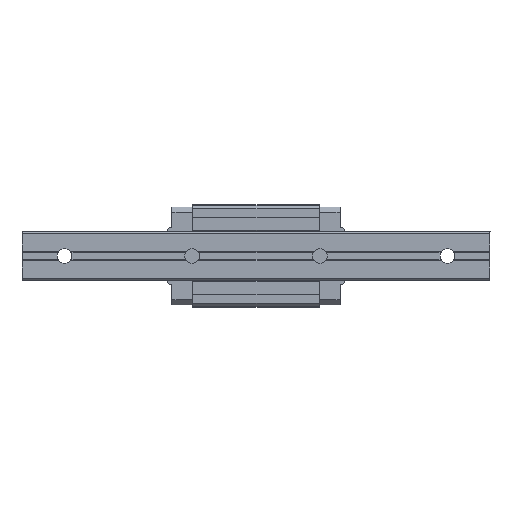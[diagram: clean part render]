
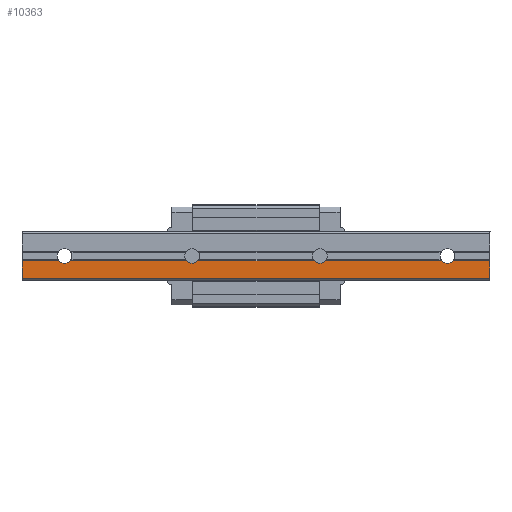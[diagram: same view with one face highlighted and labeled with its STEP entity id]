
A CAD part, front view. The second image highlights one B-rep face of the part: STEP entity #10363.
In plain terms, the highlighted planar face has unit normal (0, -1, 0).
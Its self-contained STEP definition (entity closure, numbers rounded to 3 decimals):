
#176 = CARTESIAN_POINT ( 'NONE',  ( 0., 0., 0. ) ) ;
#198 = VERTEX_POINT ( 'NONE', #8890 ) ;
#215 = DIRECTION ( 'NONE',  ( 0., 1., 0. ) ) ;
#252 = CARTESIAN_POINT ( 'NONE',  ( 180., 0., 0. ) ) ;
#267 = ORIENTED_EDGE ( 'NONE', *, *, #2455, .T. ) ;
#402 = CARTESIAN_POINT ( 'NONE',  ( 2.681, 0., -2.25 ) ) ;
#406 = CARTESIAN_POINT ( 'NONE',  ( 182.681, 0., -2.25 ) ) ;
#624 = DIRECTION ( 'NONE',  ( -1., 0., 0. ) ) ;
#743 = VERTEX_POINT ( 'NONE', #3473 ) ;
#746 = CIRCLE ( 'NONE', #6395, 3.5 ) ;
#759 = CARTESIAN_POINT ( 'NONE',  ( 180., 0., -3.5 ) ) ;
#820 = VERTEX_POINT ( 'NONE', #1976 ) ;
#879 = DIRECTION ( 'NONE',  ( -1., 0., 0. ) ) ;
#923 = DIRECTION ( 'NONE',  ( 0., 0., -1. ) ) ;
#937 = ORIENTED_EDGE ( 'NONE', *, *, #8150, .T. ) ;
#1076 = CIRCLE ( 'NONE', #7852, 3.5 ) ;
#1087 = LINE ( 'NONE', #4718, #1612 ) ;
#1111 = LINE ( 'NONE', #8879, #5697 ) ;
#1147 = ORIENTED_EDGE ( 'NONE', *, *, #2590, .T. ) ;
#1238 = CARTESIAN_POINT ( 'NONE',  ( 60., 0., -3.5 ) ) ;
#1375 = CARTESIAN_POINT ( 'NONE',  ( 60., 0., 0. ) ) ;
#1600 = VERTEX_POINT ( 'NONE', #406 ) ;
#1612 = VECTOR ( 'NONE', #2182, 1000. ) ;
#1713 = CARTESIAN_POINT ( 'NONE',  ( 120., 0., 0. ) ) ;
#1962 = VERTEX_POINT ( 'NONE', #9750 ) ;
#1976 = CARTESIAN_POINT ( 'NONE',  ( -2.681, 0., -2.25 ) ) ;
#2018 = CIRCLE ( 'NONE', #2375, 3.5 ) ;
#2039 = ORIENTED_EDGE ( 'NONE', *, *, #3336, .T. ) ;
#2053 = EDGE_CURVE ( 'NONE', #5584, #2490, #3945, .T. ) ;
#2147 = FACE_OUTER_BOUND ( 'NONE', #10454, .T. ) ;
#2171 = CARTESIAN_POINT ( 'NONE',  ( -20., 0., -2.25 ) ) ;
#2182 = DIRECTION ( 'NONE',  ( -1., 0., 0. ) ) ;
#2279 = DIRECTION ( 'NONE',  ( 0., 0., -1. ) ) ;
#2355 = EDGE_CURVE ( 'NONE', #4897, #3834, #6316, .T. ) ;
#2375 = AXIS2_PLACEMENT_3D ( 'NONE', #1713, #2534, #4187 ) ;
#2455 = EDGE_CURVE ( 'NONE', #10041, #7733, #6193, .T. ) ;
#2490 = VERTEX_POINT ( 'NONE', #5831 ) ;
#2504 = VERTEX_POINT ( 'NONE', #4121 ) ;
#2534 = DIRECTION ( 'NONE',  ( 0., 1., 0. ) ) ;
#2587 = EDGE_CURVE ( 'NONE', #198, #2504, #3027, .T. ) ;
#2590 = EDGE_CURVE ( 'NONE', #2504, #4897, #2018, .T. ) ;
#3027 = LINE ( 'NONE', #6547, #4702 ) ;
#3208 = EDGE_CURVE ( 'NONE', #3834, #743, #10423, .T. ) ;
#3283 = EDGE_CURVE ( 'NONE', #7807, #1600, #1087, .T. ) ;
#3287 = ORIENTED_EDGE ( 'NONE', *, *, #2587, .T. ) ;
#3336 = EDGE_CURVE ( 'NONE', #8562, #10041, #9797, .T. ) ;
#3353 = CARTESIAN_POINT ( 'NONE',  ( 200., 0., -2.25 ) ) ;
#3473 = CARTESIAN_POINT ( 'NONE',  ( 62.681, 0., -2.25 ) ) ;
#3574 = VECTOR ( 'NONE', #4666, 1000. ) ;
#3834 = VERTEX_POINT ( 'NONE', #9843 ) ;
#3845 = EDGE_CURVE ( 'NONE', #1962, #820, #1076, .T. ) ;
#3943 = DIRECTION ( 'NONE',  ( 0., 1., 0. ) ) ;
#3945 = LINE ( 'NONE', #5805, #9564 ) ;
#3989 = CARTESIAN_POINT ( 'NONE',  ( 0., 0., 0. ) ) ;
#4121 = CARTESIAN_POINT ( 'NONE',  ( 122.681, 0., -2.25 ) ) ;
#4187 = DIRECTION ( 'NONE',  ( 0., 0., -1. ) ) ;
#4193 = AXIS2_PLACEMENT_3D ( 'NONE', #252, #9068, #5899 ) ;
#4415 = LINE ( 'NONE', #10410, #8149 ) ;
#4666 = DIRECTION ( 'NONE',  ( -1., 0., 0. ) ) ;
#4702 = VECTOR ( 'NONE', #6511, 1000. ) ;
#4718 = CARTESIAN_POINT ( 'NONE',  ( -20., 0., -2.25 ) ) ;
#4752 = CARTESIAN_POINT ( 'NONE',  ( 57.319, 0., -2.25 ) ) ;
#4795 = DIRECTION ( 'NONE',  ( 0., 1., 0. ) ) ;
#4809 = DIRECTION ( 'NONE',  ( 0., -1., 0. ) ) ;
#4897 = VERTEX_POINT ( 'NONE', #10162 ) ;
#4906 = DIRECTION ( 'NONE',  ( 0., 0., -1. ) ) ;
#4934 = VERTEX_POINT ( 'NONE', #8633 ) ;
#4950 = DIRECTION ( 'NONE',  ( 0., 0., -1. ) ) ;
#5282 = ORIENTED_EDGE ( 'NONE', *, *, #3845, .T. ) ;
#5437 = PLANE ( 'NONE',  #10484 ) ;
#5569 = VECTOR ( 'NONE', #879, 1000. ) ;
#5584 = VERTEX_POINT ( 'NONE', #8256 ) ;
#5651 = DIRECTION ( 'NONE',  ( 0., 0., -1. ) ) ;
#5697 = VECTOR ( 'NONE', #4950, 1000. ) ;
#5805 = CARTESIAN_POINT ( 'NONE',  ( -20., 0., 0. ) ) ;
#5812 = ORIENTED_EDGE ( 'NONE', *, *, #2355, .T. ) ;
#5831 = CARTESIAN_POINT ( 'NONE',  ( -20., 0., -10.5 ) ) ;
#5837 = EDGE_CURVE ( 'NONE', #7807, #4934, #1111, .T. ) ;
#5899 = DIRECTION ( 'NONE',  ( 0., 0., -1. ) ) ;
#6079 = CARTESIAN_POINT ( 'NONE',  ( 60., 0., 0. ) ) ;
#6177 = ORIENTED_EDGE ( 'NONE', *, *, #9043, .T. ) ;
#6193 = LINE ( 'NONE', #9769, #5569 ) ;
#6198 = CIRCLE ( 'NONE', #9540, 3.5 ) ;
#6316 = CIRCLE ( 'NONE', #9887, 3.5 ) ;
#6339 = ORIENTED_EDGE ( 'NONE', *, *, #9305, .T. ) ;
#6378 = CARTESIAN_POINT ( 'NONE',  ( 120., 0., 0. ) ) ;
#6386 = DIRECTION ( 'NONE',  ( 1., 0., 0. ) ) ;
#6395 = AXIS2_PLACEMENT_3D ( 'NONE', #6079, #8537, #10158 ) ;
#6425 = DIRECTION ( 'NONE',  ( 0., 1., 0. ) ) ;
#6511 = DIRECTION ( 'NONE',  ( -1., 0., 0. ) ) ;
#6547 = CARTESIAN_POINT ( 'NONE',  ( -20., 0., -2.25 ) ) ;
#6776 = CIRCLE ( 'NONE', #9330, 3.5 ) ;
#6872 = ORIENTED_EDGE ( 'NONE', *, *, #5837, .F. ) ;
#7110 = CARTESIAN_POINT ( 'NONE',  ( -20., 0., -10.5 ) ) ;
#7158 = ORIENTED_EDGE ( 'NONE', *, *, #3208, .T. ) ;
#7318 = VERTEX_POINT ( 'NONE', #759 ) ;
#7733 = VERTEX_POINT ( 'NONE', #402 ) ;
#7807 = VERTEX_POINT ( 'NONE', #3353 ) ;
#7852 = AXIS2_PLACEMENT_3D ( 'NONE', #176, #215, #9876 ) ;
#7859 = DIRECTION ( 'NONE',  ( 0., 1., 0. ) ) ;
#8149 = VECTOR ( 'NONE', #6386, 1000. ) ;
#8150 = EDGE_CURVE ( 'NONE', #7733, #1962, #6776, .T. ) ;
#8173 = ORIENTED_EDGE ( 'NONE', *, *, #8212, .T. ) ;
#8212 = EDGE_CURVE ( 'NONE', #2490, #4934, #4415, .T. ) ;
#8256 = CARTESIAN_POINT ( 'NONE',  ( -20., 0., -2.25 ) ) ;
#8397 = CIRCLE ( 'NONE', #4193, 3.5 ) ;
#8434 = EDGE_CURVE ( 'NONE', #1600, #7318, #8397, .T. ) ;
#8526 = VECTOR ( 'NONE', #624, 1000. ) ;
#8537 = DIRECTION ( 'NONE',  ( 0., 1., 0. ) ) ;
#8562 = VERTEX_POINT ( 'NONE', #1238 ) ;
#8633 = CARTESIAN_POINT ( 'NONE',  ( 200., 0., -10.5 ) ) ;
#8655 = CARTESIAN_POINT ( 'NONE',  ( -20., 0., -2.25 ) ) ;
#8698 = ORIENTED_EDGE ( 'NONE', *, *, #3283, .T. ) ;
#8705 = CARTESIAN_POINT ( 'NONE',  ( 180., 0., 0. ) ) ;
#8783 = ORIENTED_EDGE ( 'NONE', *, *, #8434, .T. ) ;
#8879 = CARTESIAN_POINT ( 'NONE',  ( 200., 0., 0. ) ) ;
#8890 = CARTESIAN_POINT ( 'NONE',  ( 177.319, 0., -2.25 ) ) ;
#8899 = DIRECTION ( 'NONE',  ( 0., 0., -1. ) ) ;
#9043 = EDGE_CURVE ( 'NONE', #820, #5584, #9323, .T. ) ;
#9068 = DIRECTION ( 'NONE',  ( 0., 1., 0. ) ) ;
#9248 = ORIENTED_EDGE ( 'NONE', *, *, #2053, .T. ) ;
#9305 = EDGE_CURVE ( 'NONE', #743, #8562, #746, .T. ) ;
#9323 = LINE ( 'NONE', #2171, #3574 ) ;
#9330 = AXIS2_PLACEMENT_3D ( 'NONE', #3989, #6425, #4906 ) ;
#9441 = EDGE_CURVE ( 'NONE', #7318, #198, #6198, .T. ) ;
#9518 = DIRECTION ( 'NONE',  ( 0., 0., -1. ) ) ;
#9540 = AXIS2_PLACEMENT_3D ( 'NONE', #8705, #3943, #9518 ) ;
#9564 = VECTOR ( 'NONE', #923, 1000. ) ;
#9583 = AXIS2_PLACEMENT_3D ( 'NONE', #1375, #7859, #8899 ) ;
#9750 = CARTESIAN_POINT ( 'NONE',  ( 0., 0., -3.5 ) ) ;
#9769 = CARTESIAN_POINT ( 'NONE',  ( -20., 0., -2.25 ) ) ;
#9797 = CIRCLE ( 'NONE', #9583, 3.5 ) ;
#9843 = CARTESIAN_POINT ( 'NONE',  ( 117.319, 0., -2.25 ) ) ;
#9876 = DIRECTION ( 'NONE',  ( 0., 0., -1. ) ) ;
#9887 = AXIS2_PLACEMENT_3D ( 'NONE', #6378, #4795, #5651 ) ;
#10024 = ORIENTED_EDGE ( 'NONE', *, *, #9441, .T. ) ;
#10041 = VERTEX_POINT ( 'NONE', #4752 ) ;
#10158 = DIRECTION ( 'NONE',  ( 0., 0., -1. ) ) ;
#10162 = CARTESIAN_POINT ( 'NONE',  ( 120., 0., -3.5 ) ) ;
#10363 = ADVANCED_FACE ( 'NONE', ( #2147 ), #5437, .T. ) ;
#10410 = CARTESIAN_POINT ( 'NONE',  ( -20., 0., -10.5 ) ) ;
#10423 = LINE ( 'NONE', #8655, #8526 ) ;
#10454 = EDGE_LOOP ( 'NONE', ( #1147, #5812, #7158, #6339, #2039, #267, #937, #5282, #6177, #9248, #8173, #6872, #8698, #8783, #10024, #3287 ) ) ;
#10484 = AXIS2_PLACEMENT_3D ( 'NONE', #7110, #4809, #2279 ) ;
